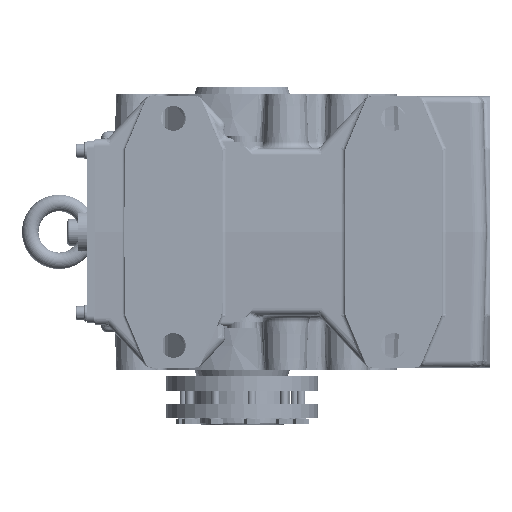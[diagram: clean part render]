
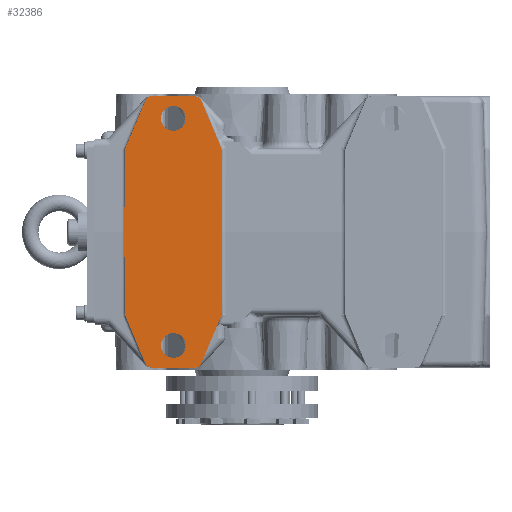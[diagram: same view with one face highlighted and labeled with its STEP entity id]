
A CAD part, left-side view. The second image highlights one B-rep face of the part: STEP entity #32386.
In plain terms, the highlighted planar face has unit normal (-1, 0, 0).
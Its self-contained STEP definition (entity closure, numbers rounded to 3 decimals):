
#32135=CARTESIAN_POINT('',(-112.,50.0,-73.5));
#32136=VERTEX_POINT('',#32135);
#32137=CARTESIAN_POINT('',(-112.,50.0,-82.5));
#32138=DIRECTION('',(1.0,0.0,0.0));
#32139=DIRECTION('',(0.0,0.0,1.0));
#32140=AXIS2_PLACEMENT_3D('',#32137,#32138,#32139);
#32141=CIRCLE('',#32140,9.0);
#32142=EDGE_CURVE('',#32136,#32136,#32141,.T.);
#32163=CARTESIAN_POINT('',(-112.,50.,91.5));
#32164=VERTEX_POINT('',#32163);
#32165=CARTESIAN_POINT('',(-112.,50.,82.5));
#32166=DIRECTION('',(1.0,0.0,0.0));
#32167=DIRECTION('',(0.0,0.0,1.0));
#32168=AXIS2_PLACEMENT_3D('',#32165,#32166,#32167);
#32169=CIRCLE('',#32168,9.0);
#32170=EDGE_CURVE('',#32164,#32164,#32169,.T.);
#32203=CARTESIAN_POINT('',(-112.,-29.479,11.268));
#32204=DIRECTION('',(1.0,0.0,0.0));
#32205=DIRECTION('',(0.0,0.0,-1.0));
#32206=AXIS2_PLACEMENT_3D('',#32203,#32204,#32205);
#32207=PLANE('',#32206);
#32208=CARTESIAN_POINT('',(-112.,85.011,-59.485));
#32209=VERTEX_POINT('',#32208);
#32210=CARTESIAN_POINT('',(-112.,86.064,0.));
#32211=VERTEX_POINT('',#32210);
#32212=CARTESIAN_POINT('',(-112.,87.0,-67.526));
#32213=DIRECTION('',(-1.0,0.0,0.0));
#32214=DIRECTION('',(0.0,0.0,1.0));
#32215=AXIS2_PLACEMENT_3D('',#32212,#32213,#32214);
#32216=ELLIPSE('',#32215,76.403,2.0);
#32217=EDGE_CURVE('',#32209,#32211,#32216,.T.);
#32218=ORIENTED_EDGE('',*,*,#32217,.F.);
#32219=CARTESIAN_POINT('',(-112.,84.614,-61.429));
#32220=VERTEX_POINT('',#32219);
#32221=CARTESIAN_POINT('',(-112.,84.614,-61.429));
#32222=CARTESIAN_POINT('',(-112.,84.744,-61.122));
#32223=CARTESIAN_POINT('',(-112.,84.843,-60.803));
#32224=CARTESIAN_POINT('',(-112.,84.909,-60.477));
#32225=CARTESIAN_POINT('',(-112.,84.976,-60.15));
#32226=CARTESIAN_POINT('',(-112.,85.01,-59.818));
#32227=CARTESIAN_POINT('',(-112.,85.011,-59.485));
#32228=B_SPLINE_CURVE_WITH_KNOTS('',3,(#32221,#32222,#32223,#32224,#32225,#32226,#32227),.UNSPECIFIED.,.F.,.U.,(4,3,4),(-0.2,-0.1,0.0),.UNSPECIFIED.);
#32229=EDGE_CURVE('',#32220,#32209,#32228,.T.);
#32230=ORIENTED_EDGE('',*,*,#32229,.F.);
#32231=CARTESIAN_POINT('',(-112.,82.368,-66.75));
#32232=VERTEX_POINT('',#32231);
#32233=CARTESIAN_POINT('',(-112.,84.212,-67.526));
#32234=DIRECTION('',(-1.0,0.0,0.0));
#32235=DIRECTION('',(0.0,0.388,0.922));
#32236=AXIS2_PLACEMENT_3D('',#32233,#32234,#32235);
#32237=ELLIPSE('',#32236,82.895,2.0);
#32238=EDGE_CURVE('',#32232,#32220,#32237,.T.);
#32239=ORIENTED_EDGE('',*,*,#32238,.F.);
#32240=CARTESIAN_POINT('',(-112.,70.288,-95.44));
#32241=VERTEX_POINT('',#32240);
#32242=CARTESIAN_POINT('',(-112.0,70.288,-95.44));
#32243=DIRECTION('',(0.0,0.388,0.922));
#32244=VECTOR('',#32243,31.13);
#32245=LINE('',#32242,#32244);
#32246=EDGE_CURVE('',#32241,#32232,#32245,.T.);
#32247=ORIENTED_EDGE('',*,*,#32246,.F.);
#32248=CARTESIAN_POINT('',(-112.,65.68,-98.5));
#32249=VERTEX_POINT('',#32248);
#32250=CARTESIAN_POINT('',(-112.,65.68,-93.5));
#32251=DIRECTION('',(1.0,0.0,0.0));
#32252=DIRECTION('',(0.0,0.0,-1.0));
#32253=AXIS2_PLACEMENT_3D('',#32250,#32251,#32252);
#32254=CIRCLE('',#32253,5.0);
#32255=EDGE_CURVE('',#32249,#32241,#32254,.T.);
#32256=ORIENTED_EDGE('',*,*,#32255,.F.);
#32257=CARTESIAN_POINT('',(-112.,34.32,-98.5));
#32258=VERTEX_POINT('',#32257);
#32259=CARTESIAN_POINT('',(-112.,34.32,-98.5));
#32260=DIRECTION('',(0.0,1.0,0.0));
#32261=VECTOR('',#32260,31.36);
#32262=LINE('',#32259,#32261);
#32263=EDGE_CURVE('',#32258,#32249,#32262,.T.);
#32264=ORIENTED_EDGE('',*,*,#32263,.F.);
#32265=CARTESIAN_POINT('',(-112.,29.712,-95.44));
#32266=VERTEX_POINT('',#32265);
#32267=CARTESIAN_POINT('',(-112.,34.32,-93.5));
#32268=DIRECTION('',(1.0,0.0,0.0));
#32269=DIRECTION('',(0.0,0.0,-1.0));
#32270=AXIS2_PLACEMENT_3D('',#32267,#32268,#32269);
#32271=CIRCLE('',#32270,5.0);
#32272=EDGE_CURVE('',#32266,#32258,#32271,.T.);
#32273=ORIENTED_EDGE('',*,*,#32272,.F.);
#32274=CARTESIAN_POINT('',(-112.,15.392,-61.431));
#32275=VERTEX_POINT('',#32274);
#32276=CARTESIAN_POINT('',(-112.,15.392,-61.431));
#32277=DIRECTION('',(0.0,0.388,-0.922));
#32278=VECTOR('',#32277,36.901);
#32279=LINE('',#32276,#32278);
#32280=EDGE_CURVE('',#32275,#32266,#32279,.T.);
#32281=ORIENTED_EDGE('',*,*,#32280,.F.);
#32282=CARTESIAN_POINT('',(-112.,15.0,-59.49));
#32283=VERTEX_POINT('',#32282);
#32284=CARTESIAN_POINT('',(-112.,20.0,-59.49));
#32285=DIRECTION('',(1.0,0.0,0.0));
#32286=DIRECTION('',(0.0,-0.98,-0.198));
#32287=AXIS2_PLACEMENT_3D('',#32284,#32285,#32286);
#32288=CIRCLE('',#32287,5.0);
#32289=EDGE_CURVE('',#32283,#32275,#32288,.T.);
#32290=ORIENTED_EDGE('',*,*,#32289,.F.);
#32291=CARTESIAN_POINT('',(-112.,15.0,59.49));
#32292=VERTEX_POINT('',#32291);
#32293=CARTESIAN_POINT('',(-112.,15.0,59.49));
#32294=DIRECTION('',(0.0,0.0,-1.0));
#32295=VECTOR('',#32294,118.981);
#32296=LINE('',#32293,#32295);
#32297=EDGE_CURVE('',#32292,#32283,#32296,.T.);
#32298=ORIENTED_EDGE('',*,*,#32297,.F.);
#32299=CARTESIAN_POINT('',(-112.,15.392,61.431));
#32300=VERTEX_POINT('',#32299);
#32301=CARTESIAN_POINT('',(-112.,20.0,59.49));
#32302=DIRECTION('',(1.0,0.0,0.0));
#32303=DIRECTION('',(0.0,-0.98,0.198));
#32304=AXIS2_PLACEMENT_3D('',#32301,#32302,#32303);
#32305=CIRCLE('',#32304,5.);
#32306=EDGE_CURVE('',#32300,#32292,#32305,.T.);
#32307=ORIENTED_EDGE('',*,*,#32306,.F.);
#32308=CARTESIAN_POINT('',(-112.,29.712,95.44));
#32309=VERTEX_POINT('',#32308);
#32310=CARTESIAN_POINT('',(-112.,29.712,95.44));
#32311=DIRECTION('',(0.0,-0.388,-0.922));
#32312=VECTOR('',#32311,36.901);
#32313=LINE('',#32310,#32312);
#32314=EDGE_CURVE('',#32309,#32300,#32313,.T.);
#32315=ORIENTED_EDGE('',*,*,#32314,.F.);
#32316=CARTESIAN_POINT('',(-112.,34.32,98.5));
#32317=VERTEX_POINT('',#32316);
#32318=CARTESIAN_POINT('',(-112.,34.32,93.5));
#32319=DIRECTION('',(1.0,0.0,0.0));
#32320=DIRECTION('',(0.0,0.0,1.0));
#32321=AXIS2_PLACEMENT_3D('',#32318,#32319,#32320);
#32322=CIRCLE('',#32321,5.0);
#32323=EDGE_CURVE('',#32317,#32309,#32322,.T.);
#32324=ORIENTED_EDGE('',*,*,#32323,.F.);
#32325=CARTESIAN_POINT('',(-112.,65.68,98.5));
#32326=VERTEX_POINT('',#32325);
#32327=CARTESIAN_POINT('',(-112.,65.68,98.5));
#32328=DIRECTION('',(0.0,-1.0,0.0));
#32329=VECTOR('',#32328,31.36);
#32330=LINE('',#32327,#32329);
#32331=EDGE_CURVE('',#32326,#32317,#32330,.T.);
#32332=ORIENTED_EDGE('',*,*,#32331,.F.);
#32333=CARTESIAN_POINT('',(-112.,70.288,95.44));
#32334=VERTEX_POINT('',#32333);
#32335=CARTESIAN_POINT('',(-112.,65.68,93.5));
#32336=DIRECTION('',(1.0,0.0,0.0));
#32337=DIRECTION('',(0.0,0.0,1.0));
#32338=AXIS2_PLACEMENT_3D('',#32335,#32336,#32337);
#32339=CIRCLE('',#32338,5.0);
#32340=EDGE_CURVE('',#32334,#32326,#32339,.T.);
#32341=ORIENTED_EDGE('',*,*,#32340,.F.);
#32342=CARTESIAN_POINT('',(-112.,82.368,66.75));
#32343=VERTEX_POINT('',#32342);
#32344=CARTESIAN_POINT('',(-112.0,82.368,66.75));
#32345=DIRECTION('',(0.0,-0.388,0.922));
#32346=VECTOR('',#32345,31.13);
#32347=LINE('',#32344,#32346);
#32348=EDGE_CURVE('',#32343,#32334,#32347,.T.);
#32349=ORIENTED_EDGE('',*,*,#32348,.F.);
#32350=CARTESIAN_POINT('',(-112.,84.614,61.429));
#32351=VERTEX_POINT('',#32350);
#32352=CARTESIAN_POINT('',(-112.,84.212,67.526));
#32353=DIRECTION('',(-1.0,0.0,0.0));
#32354=DIRECTION('',(0.0,0.388,-0.922));
#32355=AXIS2_PLACEMENT_3D('',#32352,#32353,#32354);
#32356=ELLIPSE('',#32355,82.895,2.0);
#32357=EDGE_CURVE('',#32351,#32343,#32356,.T.);
#32358=ORIENTED_EDGE('',*,*,#32357,.F.);
#32359=CARTESIAN_POINT('',(-112.,85.011,59.485));
#32360=VERTEX_POINT('',#32359);
#32361=CARTESIAN_POINT('',(-112.,85.011,59.485));
#32362=CARTESIAN_POINT('',(-112.,85.01,59.818));
#32363=CARTESIAN_POINT('',(-112.,84.976,60.151));
#32364=CARTESIAN_POINT('',(-112.,84.909,60.478));
#32365=CARTESIAN_POINT('',(-112.,84.842,60.804));
#32366=CARTESIAN_POINT('',(-112.,84.744,61.123));
#32367=CARTESIAN_POINT('',(-112.,84.614,61.429));
#32368=B_SPLINE_CURVE_WITH_KNOTS('',3,(#32361,#32362,#32363,#32364,#32365,#32366,#32367),.UNSPECIFIED.,.F.,.U.,(4,3,4),(-0.2,-0.1,0.0),.UNSPECIFIED.);
#32369=EDGE_CURVE('',#32360,#32351,#32368,.T.);
#32370=ORIENTED_EDGE('',*,*,#32369,.F.);
#32371=CARTESIAN_POINT('',(-112.,87.0,67.526));
#32372=DIRECTION('',(-1.0,0.0,0.0));
#32373=DIRECTION('',(0.0,0.0,-1.0));
#32374=AXIS2_PLACEMENT_3D('',#32371,#32372,#32373);
#32375=ELLIPSE('',#32374,76.403,2.0);
#32376=EDGE_CURVE('',#32211,#32360,#32375,.T.);
#32377=ORIENTED_EDGE('',*,*,#32376,.F.);
#32378=EDGE_LOOP('',(#32218,#32230,#32239,#32247,#32256,#32264,#32273,#32281,#32290,#32298,#32307,#32315,#32324,#32332,#32341,#32349,#32358,#32370,#32377));
#32379=FACE_OUTER_BOUND('',#32378,.T.);
#32380=ORIENTED_EDGE('',*,*,#32142,.T.);
#32381=EDGE_LOOP('',(#32380));
#32382=FACE_BOUND('',#32381,.T.);
#32383=ORIENTED_EDGE('',*,*,#32170,.T.);
#32384=EDGE_LOOP('',(#32383));
#32385=FACE_BOUND('',#32384,.T.);
#32386=ADVANCED_FACE('',(#32379,#32382,#32385),#32207,.F.);
